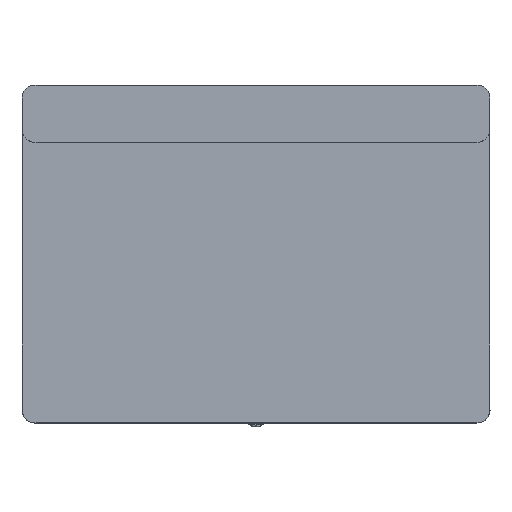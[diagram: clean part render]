
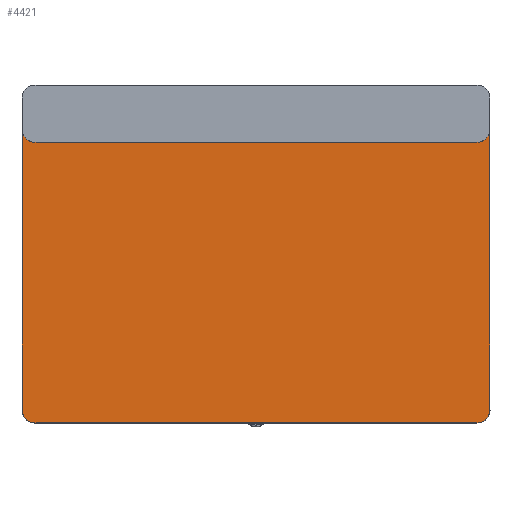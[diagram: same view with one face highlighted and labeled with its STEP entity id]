
A CAD part, front view. The second image highlights one B-rep face of the part: STEP entity #4421.
In plain terms, the highlighted planar face has unit normal (0, -1, 0) as drawn and (0, 0, 1) by its records, which use the part's own axes.
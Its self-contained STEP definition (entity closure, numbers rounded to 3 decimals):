
#272=PLANE('',#4876);
#455=FACE_OUTER_BOUND('',#705,.T.);
#705=EDGE_LOOP('',(#3389,#3390,#3391,#3392,#3393,#3394,#3395,#3396));
#1069=LINE('',#6820,#1521);
#1088=LINE('',#6879,#1540);
#1089=LINE('',#6883,#1541);
#1090=LINE('',#6886,#1542);
#1521=VECTOR('',#5493,1000.);
#1540=VECTOR('',#5556,1000.);
#1541=VECTOR('',#5559,1000.);
#1542=VECTOR('',#5562,1000.);
#1889=CIRCLE('',#4875,24.5);
#1890=CIRCLE('',#4877,25.);
#1891=CIRCLE('',#4878,24.5);
#1892=CIRCLE('',#4879,25.);
#2104=VERTEX_POINT('',#6817);
#2105=VERTEX_POINT('',#6819);
#2121=VERTEX_POINT('',#6873);
#2122=VERTEX_POINT('',#6877);
#2123=VERTEX_POINT('',#6878);
#2124=VERTEX_POINT('',#6880);
#2125=VERTEX_POINT('',#6882);
#2126=VERTEX_POINT('',#6884);
#2568=EDGE_CURVE('',#2104,#2105,#1069,.T.);
#2595=EDGE_CURVE('',#2105,#2121,#1889,.T.);
#2597=EDGE_CURVE('',#2122,#2123,#1088,.T.);
#2598=EDGE_CURVE('',#2123,#2124,#1890,.T.);
#2599=EDGE_CURVE('',#2124,#2125,#1089,.T.);
#2600=EDGE_CURVE('',#2125,#2126,#1891,.T.);
#2601=EDGE_CURVE('',#2126,#2121,#1090,.T.);
#2602=EDGE_CURVE('',#2104,#2122,#1892,.T.);
#3389=ORIENTED_EDGE('',*,*,#2597,.T.);
#3390=ORIENTED_EDGE('',*,*,#2598,.T.);
#3391=ORIENTED_EDGE('',*,*,#2599,.T.);
#3392=ORIENTED_EDGE('',*,*,#2600,.T.);
#3393=ORIENTED_EDGE('',*,*,#2601,.T.);
#3394=ORIENTED_EDGE('',*,*,#2595,.F.);
#3395=ORIENTED_EDGE('',*,*,#2568,.F.);
#3396=ORIENTED_EDGE('',*,*,#2602,.T.);
#4421=ADVANCED_FACE('',(#455),#272,.T.);
#4875=AXIS2_PLACEMENT_3D('',#6874,#5551,#5552);
#4876=AXIS2_PLACEMENT_3D('',#6876,#5554,#5555);
#4877=AXIS2_PLACEMENT_3D('',#6881,#5557,#5558);
#4878=AXIS2_PLACEMENT_3D('',#6885,#5560,#5561);
#4879=AXIS2_PLACEMENT_3D('',#6887,#5563,#5564);
#5493=DIRECTION('',(0.,-1.,0.));
#5551=DIRECTION('center_axis',(0.,0.,-1.));
#5552=DIRECTION('ref_axis',(-1.,0.,0.));
#5554=DIRECTION('center_axis',(0.,0.,1.));
#5555=DIRECTION('ref_axis',(1.,0.,0.));
#5556=DIRECTION('',(-1.,0.,0.));
#5557=DIRECTION('center_axis',(0.,0.,-1.));
#5558=DIRECTION('ref_axis',(1.,0.,0.));
#5559=DIRECTION('',(0.,-1.,0.));
#5560=DIRECTION('center_axis',(0.,0.,1.));
#5561=DIRECTION('ref_axis',(-1.,0.,0.));
#5562=DIRECTION('',(1.,0.,0.));
#5563=DIRECTION('center_axis',(0.,0.,-1.));
#5564=DIRECTION('ref_axis',(1.,0.,0.));
#6817=CARTESIAN_POINT('',(820.654,-99.903,5.));
#6819=CARTESIAN_POINT('',(820.654,-634.928,5.));
#6820=CARTESIAN_POINT('',(820.654,-172.428,5.));
#6873=CARTESIAN_POINT('',(796.154,-659.428,5.));
#6874=CARTESIAN_POINT('Origin',(796.154,-634.928,5.));
#6876=CARTESIAN_POINT('Origin',(371.154,-334.928,5.));
#6877=CARTESIAN_POINT('',(796.154,-119.928,5.));
#6878=CARTESIAN_POINT('',(-53.846,-119.928,5.));
#6879=CARTESIAN_POINT('',(371.154,-119.928,5.));
#6880=CARTESIAN_POINT('',(-78.346,-99.903,5.));
#6881=CARTESIAN_POINT('Origin',(-53.846,-94.928,5.));
#6882=CARTESIAN_POINT('',(-78.346,-634.928,5.));
#6883=CARTESIAN_POINT('',(-78.346,-334.928,5.));
#6884=CARTESIAN_POINT('',(-53.846,-659.428,5.));
#6885=CARTESIAN_POINT('Origin',(-53.846,-634.928,5.));
#6886=CARTESIAN_POINT('',(371.154,-659.428,5.));
#6887=CARTESIAN_POINT('Origin',(796.154,-94.928,5.));
